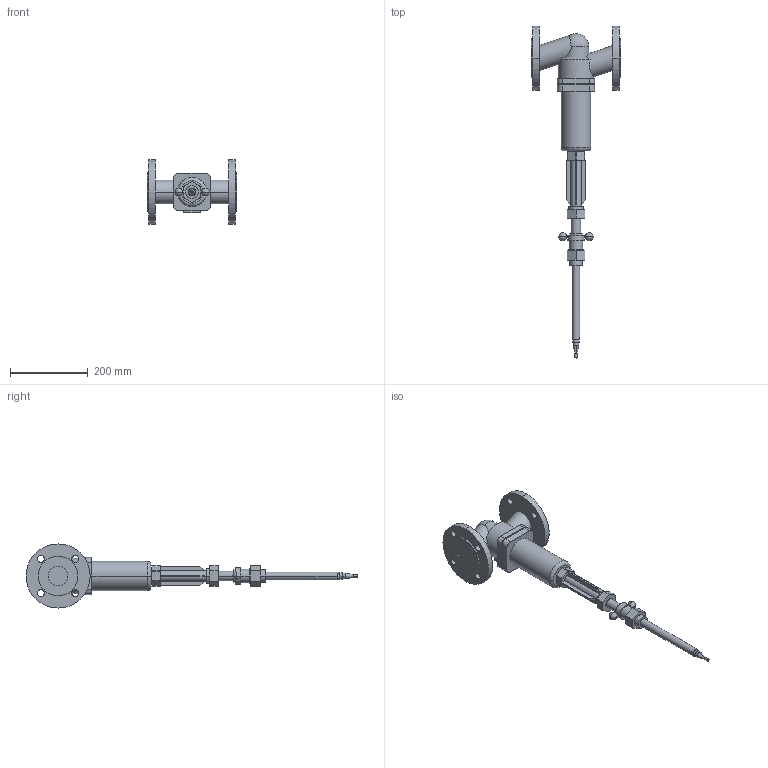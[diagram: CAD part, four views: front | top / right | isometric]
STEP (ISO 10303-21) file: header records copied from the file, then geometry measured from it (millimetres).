
FILE_DESCRIPTION(('CoCreate Modeling STEP Export'),'2;1');
FILE_NAME('c000001253.stp','2011-09-22T11:16:54',(''),(''),'CoCreate Modeling STEP processor for AP214 (Solid Model)','CoCreate Modeling 17.0 01-Apr-2010 (C) Parametric Technology GmbH','');
FILE_SCHEMA(('AUTOMOTIVE_DESIGN { 1 0 10303 214 1 1 1 1 }'));
Length unit declared in the file: millimetre
Products named in the file (1): 1
Bounding box: 230 x 853.55 x 165 mm (x, y, z)
Volume: 2953851.7 mm3; surface area: 284515.9 mm2
Topology: 1 solids, 1 shells, 204 faces, 516 edges, 331 vertices
Faces by surface type: plane 92, cylinder 90, sphere 10, cone 10, torus 2
Entity records: 9500 total; most frequent: CARTESIAN_POINT 3317, ORIENTED_EDGE 1012, DIRECTION 843, EDGE_CURVE 506, VERTEX_POINT 331, AXIS2_PLACEMENT_3D 295, VECTOR 253, LINE 253
